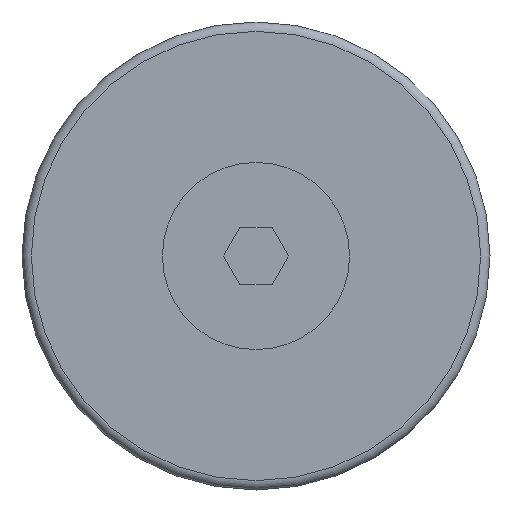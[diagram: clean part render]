
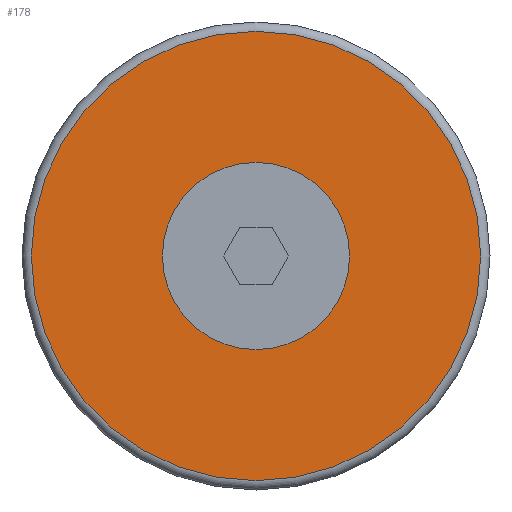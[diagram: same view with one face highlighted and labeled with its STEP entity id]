
A CAD part, front view. The second image highlights one B-rep face of the part: STEP entity #178.
In plain terms, the highlighted planar face has unit normal (0, -1, 0).
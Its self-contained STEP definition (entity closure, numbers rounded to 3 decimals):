
#178=ADVANCED_FACE('',(#241,#242),#243,.F.);
#241=FACE_OUTER_BOUND('',#365,.T.);
#242=FACE_BOUND('',#366,.T.);
#243=PLANE('',#367);
#365=EDGE_LOOP('',(#517));
#366=EDGE_LOOP('',(#518));
#367=AXIS2_PLACEMENT_3D('',#519,#520,#521);
#517=ORIENTED_EDGE('',*,*,#837,.F.);
#518=ORIENTED_EDGE('',*,*,#836,.T.);
#519=CARTESIAN_POINT('',(-5.,-16.0,0.));
#520=DIRECTION('',(0.0,1.0,0.0));
#521=DIRECTION('',(0.0,0.0,1.0));
#836=EDGE_CURVE('',#945,#945,#946,.T.);
#837=EDGE_CURVE('',#947,#947,#948,.T.);
#945=VERTEX_POINT('',#1120);
#946=CIRCLE('',#1121,5.);
#947=VERTEX_POINT('',#1122);
#948=CIRCLE('',#1123,12.);
#1120=CARTESIAN_POINT('',(0.,-16.0,5.));
#1121=AXIS2_PLACEMENT_3D('',#1440,#1441,#1442);
#1122=CARTESIAN_POINT('',(0.,-16.0,12.));
#1123=AXIS2_PLACEMENT_3D('',#1443,#1444,#1445);
#1440=CARTESIAN_POINT('',(0.,-16.0,0.));
#1441=DIRECTION('',(0.0,1.0,0.0));
#1442=DIRECTION('',(0.0,0.0,1.0));
#1443=CARTESIAN_POINT('',(0.,-16.0,0.));
#1444=DIRECTION('',(0.0,1.0,0.0));
#1445=DIRECTION('',(0.0,0.0,1.0));
